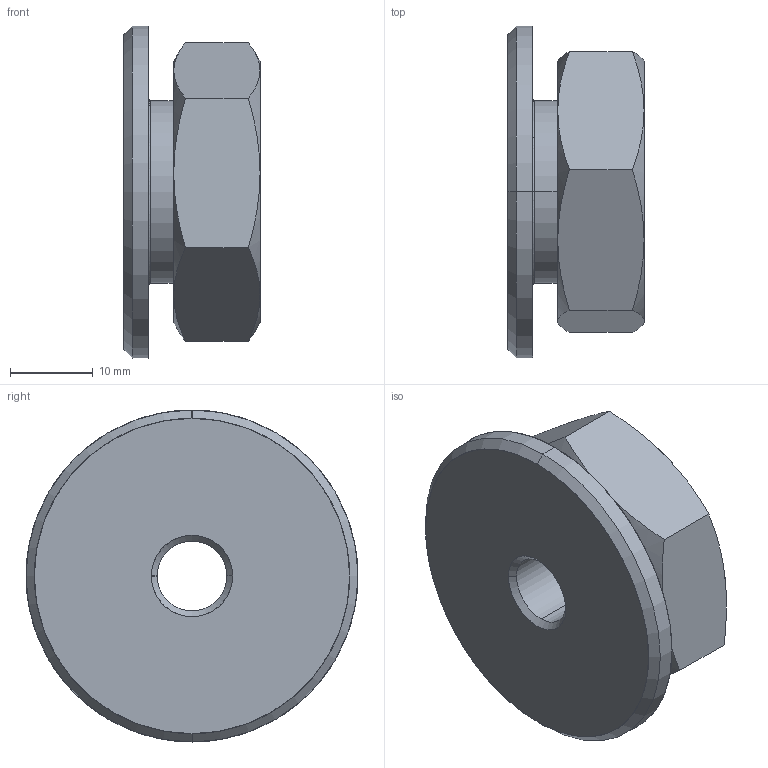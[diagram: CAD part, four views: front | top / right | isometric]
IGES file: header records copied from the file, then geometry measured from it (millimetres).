
Start section: SolidWorks IGES file using analytic representation for surfaces
Global section: file name: R:\Inventor\Kundmodeller Solidworks\Chuckar\041J000003 Saw blade holder Ø22 mm.IGS; native system: SolidWorks 2008; preprocessor: SolidWorks 2008; author: Johan; date: 090903.152736; units: millimetre
Bounding box: 16.4 x 40 x 40 mm (x, y, z)
Surface area: 6769.4 mm2 (no closed solid volume)
Topology: 0 solids, 0 shells, 56 faces, 828 edges, 828 vertices
Faces by surface type: revolution 38, bspline 18
